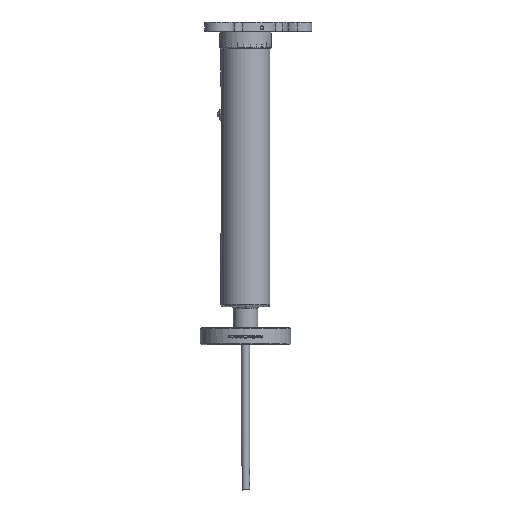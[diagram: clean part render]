
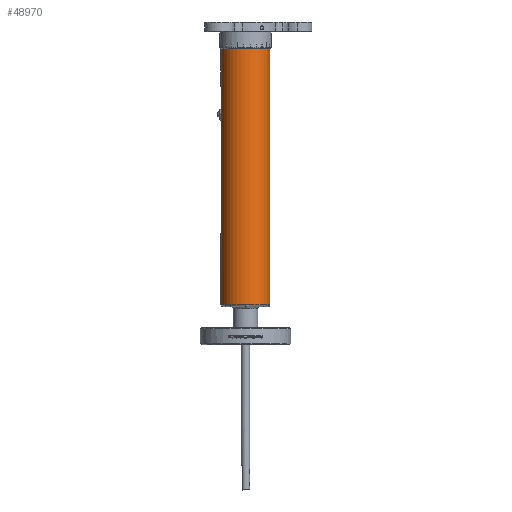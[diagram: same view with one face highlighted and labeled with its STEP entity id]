
A CAD part, left-side view. The second image highlights one B-rep face of the part: STEP entity #48970.
In plain terms, the highlighted cylindrical face has radius 18.733 mm (diameter 37.465 mm), a partial arc.
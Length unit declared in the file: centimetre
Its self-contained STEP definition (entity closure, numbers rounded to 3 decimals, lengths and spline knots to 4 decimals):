
#2275 = LINE ( 'NONE', #12138, #2298 ) ;
#2298 = VECTOR ( 'NONE', #12133, 100. ) ;
#2402 = LINE ( 'NONE', #12733, #2405 ) ;
#2405 = VECTOR ( 'NONE', #12734, 100. ) ;
#2413 = CIRCLE ( 'NONE', #30005, 1.8733 ) ;
#2423 = LINE ( 'NONE', #16006, #2424 ) ;
#2424 = VECTOR ( 'NONE', #16023, 100. ) ;
#5919 = EDGE_CURVE ( 'NONE', #44064, #43554, #45943, .T. ) ;
#5920 = EDGE_CURVE ( 'NONE', #43613, #43515, #45939, .T. ) ;
#5922 = EDGE_CURVE ( 'NONE', #43524, #19306, #7269, .T. ) ;
#5924 = EDGE_CURVE ( 'NONE', #19306, #19311, #45949, .T. ) ;
#5925 = EDGE_CURVE ( 'NONE', #19311, #43572, #7270, .T. ) ;
#6981 = AXIS2_PLACEMENT_3D ( 'NONE', #11067, #11068, #11069 ) ;
#6982 = AXIS2_PLACEMENT_3D ( 'NONE', #11072, #11073, #11074 ) ;
#7269 = B_SPLINE_CURVE_WITH_KNOTS ( 'NONE', 3,
 ( #11076, #11070, #11071, #11078, #11079, #41868, #41869, #41870, #41871, #41872, #41873, #41874, #41875, #41876, #41877, #41878, #41879, #41880 ),
 .UNSPECIFIED., .F., .F.,
 ( 4, 2, 2, 2, 2, 2, 2, 2, 4 ),
 ( 0., 0.0009, 0.0019, 0.0028, 0.0037, 0.0047, 0.0056, 0.0065, 0.0075 ),
 .UNSPECIFIED. ) ;
#7270 = B_SPLINE_CURVE_WITH_KNOTS ( 'NONE', 3,
 ( #41886, #41882, #41888, #41889, #41890, #41891, #41892, #41893, #41894, #41895, #41896, #41897, #41898, #41899, #41900, #41901, #41902, #41903 ),
 .UNSPECIFIED., .F., .F.,
 ( 4, 2, 2, 2, 2, 2, 2, 2, 4 ),
 ( 0., 0.0009, 0.0019, 0.0028, 0.0037, 0.0047, 0.0056, 0.0065, 0.0075 ),
 .UNSPECIFIED. ) ;
#11067 = CARTESIAN_POINT ( 'NONE',  ( 0., 0., 3.0556 ) ) ;
#11068 = DIRECTION ( 'NONE',  ( 0., 0., 1. ) ) ;
#11069 = DIRECTION ( 'NONE',  ( 0., -1., 0. ) ) ;
#11070 = CARTESIAN_POINT ( 'NONE',  ( -0.0316, 1.8733, 19.7676 ) ) ;
#11071 = CARTESIAN_POINT ( 'NONE',  ( -0.0626, 1.8725, 19.7644 ) ) ;
#11072 = CARTESIAN_POINT ( 'NONE',  ( 0., 0., 22.6314 ) ) ;
#11073 = DIRECTION ( 'NONE',  ( 0., 0., -1. ) ) ;
#11074 = DIRECTION ( 'NONE',  ( 0., -1., 0. ) ) ;
#11076 = CARTESIAN_POINT ( 'NONE',  ( 0., 1.8733, 19.7676 ) ) ;
#11077 = CARTESIAN_POINT ( 'NONE',  ( -0.4763, 1.8117, 3.1471 ) ) ;
#11078 = CARTESIAN_POINT ( 'NONE',  ( -0.1236, 1.8694, 19.7523 ) ) ;
#11079 = CARTESIAN_POINT ( 'NONE',  ( -0.1539, 1.8671, 19.7431 ) ) ;
#12133 = DIRECTION ( 'NONE',  ( 0., 0., 1. ) ) ;
#12138 = CARTESIAN_POINT ( 'NONE',  ( 0., 1.8732, 3.1471 ) ) ;
#12733 = CARTESIAN_POINT ( 'NONE',  ( 0., -1.8733, 3.1471 ) ) ;
#12734 = DIRECTION ( 'NONE',  ( 0., 0., 1. ) ) ;
#12854 = CARTESIAN_POINT ( 'NONE',  ( 0., 0., 3.0556 ) ) ;
#12855 = DIRECTION ( 'NONE',  ( 0., 0., 1. ) ) ;
#12856 = DIRECTION ( 'NONE',  ( 0., -1., 0. ) ) ;
#14920 = FACE_OUTER_BOUND ( 'NONE', #19587, .T. ) ;
#14929 = CYLINDRICAL_SURFACE ( 'NONE', #25708, 1.8733 ) ;
#16006 = CARTESIAN_POINT ( 'NONE',  ( 0., 1.8732, 3.1471 ) ) ;
#16023 = DIRECTION ( 'NONE',  ( 0., 0., 1. ) ) ;
#19306 = VERTEX_POINT ( 'NONE', #24184 ) ;
#19311 = VERTEX_POINT ( 'NONE', #24194 ) ;
#19587 = EDGE_LOOP ( 'NONE', ( #31417, #31419, #31421, #31423, #31425, #31427, #31430, #31432, #31434 ) ) ;
#21427 = EDGE_CURVE ( 'NONE', #43524, #43515, #2275, .T. ) ;
#21542 = EDGE_CURVE ( 'NONE', #43543, #43613, #2402, .T. ) ;
#21550 = EDGE_CURVE ( 'NONE', #43554, #43543, #2413, .T. ) ;
#21582 = EDGE_CURVE ( 'NONE', #44064, #43572, #2423, .T. ) ;
#24184 = CARTESIAN_POINT ( 'NONE',  ( -0.4763, 1.8117, 19.2913 ) ) ;
#24194 = CARTESIAN_POINT ( 'NONE',  ( -0.4763, 1.8117, 9.0043 ) ) ;
#25708 = AXIS2_PLACEMENT_3D ( 'NONE', #32626, #32620, #32604 ) ;
#30005 = AXIS2_PLACEMENT_3D ( 'NONE', #12854, #12855, #12856 ) ;
#31417 = ORIENTED_EDGE ( 'NONE', *, *, #21582, .F. ) ;
#31419 = ORIENTED_EDGE ( 'NONE', *, *, #5919, .T. ) ;
#31421 = ORIENTED_EDGE ( 'NONE', *, *, #21550, .T. ) ;
#31423 = ORIENTED_EDGE ( 'NONE', *, *, #21542, .T. ) ;
#31425 = ORIENTED_EDGE ( 'NONE', *, *, #5920, .T. ) ;
#31427 = ORIENTED_EDGE ( 'NONE', *, *, #21427, .F. ) ;
#31430 = ORIENTED_EDGE ( 'NONE', *, *, #5922, .T. ) ;
#31432 = ORIENTED_EDGE ( 'NONE', *, *, #5924, .T. ) ;
#31434 = ORIENTED_EDGE ( 'NONE', *, *, #5925, .T. ) ;
#32604 = DIRECTION ( 'NONE',  ( 0., -1., 0. ) ) ;
#32620 = DIRECTION ( 'NONE',  ( 0., 0., 1. ) ) ;
#32626 = CARTESIAN_POINT ( 'NONE',  ( 0., 0., 3.1471 ) ) ;
#41868 = CARTESIAN_POINT ( 'NONE',  ( -0.2115, 1.8615, 19.7191 ) ) ;
#41869 = CARTESIAN_POINT ( 'NONE',  ( -0.2388, 1.8581, 19.7045 ) ) ;
#41870 = CARTESIAN_POINT ( 'NONE',  ( -0.2905, 1.8508, 19.67 ) ) ;
#41871 = CARTESIAN_POINT ( 'NONE',  ( -0.3148, 1.8467, 19.65 ) ) ;
#41872 = CARTESIAN_POINT ( 'NONE',  ( -0.3585, 1.8388, 19.6063 ) ) ;
#41873 = CARTESIAN_POINT ( 'NONE',  ( -0.3782, 1.8348, 19.5824 ) ) ;
#41874 = CARTESIAN_POINT ( 'NONE',  ( -0.413, 1.8272, 19.5305 ) ) ;
#41875 = CARTESIAN_POINT ( 'NONE',  ( -0.4277, 1.8238, 19.503 ) ) ;
#41876 = CARTESIAN_POINT ( 'NONE',  ( -0.4516, 1.818, 19.4458 ) ) ;
#41877 = CARTESIAN_POINT ( 'NONE',  ( -0.4608, 1.8157, 19.4157 ) ) ;
#41878 = CARTESIAN_POINT ( 'NONE',  ( -0.4731, 1.8125, 19.3541 ) ) ;
#41879 = CARTESIAN_POINT ( 'NONE',  ( -0.4763, 1.8117, 19.3229 ) ) ;
#41880 = CARTESIAN_POINT ( 'NONE',  ( -0.4763, 1.8117, 19.2913 ) ) ;
#41882 = CARTESIAN_POINT ( 'NONE',  ( -0.4763, 1.8117, 8.9727 ) ) ;
#41884 = DIRECTION ( 'NONE',  ( 0., 0., -1. ) ) ;
#41886 = CARTESIAN_POINT ( 'NONE',  ( -0.4763, 1.8117, 9.0043 ) ) ;
#41888 = CARTESIAN_POINT ( 'NONE',  ( -0.4731, 1.8125, 8.9417 ) ) ;
#41889 = CARTESIAN_POINT ( 'NONE',  ( -0.461, 1.8157, 8.8807 ) ) ;
#41890 = CARTESIAN_POINT ( 'NONE',  ( -0.4518, 1.818, 8.8504 ) ) ;
#41891 = CARTESIAN_POINT ( 'NONE',  ( -0.4278, 1.8238, 8.7928 ) ) ;
#41892 = CARTESIAN_POINT ( 'NONE',  ( -0.4132, 1.8272, 8.7655 ) ) ;
#41893 = CARTESIAN_POINT ( 'NONE',  ( -0.3787, 1.8347, 8.7139 ) ) ;
#41894 = CARTESIAN_POINT ( 'NONE',  ( -0.3587, 1.8387, 8.6895 ) ) ;
#41895 = CARTESIAN_POINT ( 'NONE',  ( -0.315, 1.8467, 8.6458 ) ) ;
#41896 = CARTESIAN_POINT ( 'NONE',  ( -0.2911, 1.8507, 8.6261 ) ) ;
#41897 = CARTESIAN_POINT ( 'NONE',  ( -0.2392, 1.8581, 8.5913 ) ) ;
#41898 = CARTESIAN_POINT ( 'NONE',  ( -0.2117, 1.8615, 8.5766 ) ) ;
#41899 = CARTESIAN_POINT ( 'NONE',  ( -0.1545, 1.8671, 8.5527 ) ) ;
#41900 = CARTESIAN_POINT ( 'NONE',  ( -0.1244, 1.8694, 8.5435 ) ) ;
#41901 = CARTESIAN_POINT ( 'NONE',  ( -0.0628, 1.8725, 8.5312 ) ) ;
#41902 = CARTESIAN_POINT ( 'NONE',  ( -0.0316, 1.8732, 8.5281 ) ) ;
#41903 = CARTESIAN_POINT ( 'NONE',  ( 0., 1.8732, 8.5281 ) ) ;
#43515 = VERTEX_POINT ( 'NONE', #53320 ) ;
#43524 = VERTEX_POINT ( 'NONE', #53319 ) ;
#43543 = VERTEX_POINT ( 'NONE', #53325 ) ;
#43554 = VERTEX_POINT ( 'NONE', #53321 ) ;
#43572 = VERTEX_POINT ( 'NONE', #53324 ) ;
#43613 = VERTEX_POINT ( 'NONE', #53337 ) ;
#44064 = VERTEX_POINT ( 'NONE', #53430 ) ;
#45939 = CIRCLE ( 'NONE', #6982, 1.8733 ) ;
#45943 = CIRCLE ( 'NONE', #6981, 1.8733 ) ;
#45949 = LINE ( 'NONE', #11077, #45951 ) ;
#45951 = VECTOR ( 'NONE', #41884, 100. ) ;
#48970 = ADVANCED_FACE ( 'NONE', ( #14920 ), #14929, .T. ) ;
#53319 = CARTESIAN_POINT ( 'NONE',  ( 0., 1.8733, 19.7676 ) ) ;
#53320 = CARTESIAN_POINT ( 'NONE',  ( 0., 1.8733, 22.6314 ) ) ;
#53321 = CARTESIAN_POINT ( 'NONE',  ( -1.8733, 0., 3.0556 ) ) ;
#53324 = CARTESIAN_POINT ( 'NONE',  ( 0., 1.8732, 8.5281 ) ) ;
#53325 = CARTESIAN_POINT ( 'NONE',  ( 0., -1.8733, 3.0556 ) ) ;
#53337 = CARTESIAN_POINT ( 'NONE',  ( 0., -1.8732, 22.6314 ) ) ;
#53430 = CARTESIAN_POINT ( 'NONE',  ( 0., 1.8732, 3.0556 ) ) ;
